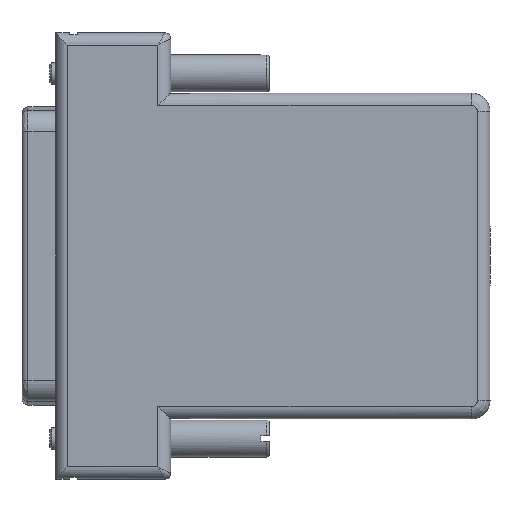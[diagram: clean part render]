
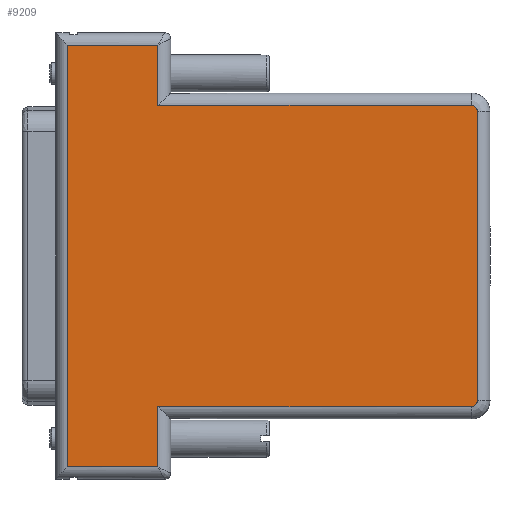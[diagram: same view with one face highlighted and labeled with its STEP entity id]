
A CAD part, front view. The second image highlights one B-rep face of the part: STEP entity #9209.
In plain terms, the highlighted planar face has unit normal (-0.043, -0.999, 0).
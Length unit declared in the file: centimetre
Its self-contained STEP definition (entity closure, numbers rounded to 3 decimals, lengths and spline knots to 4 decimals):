
#327 = EDGE_LOOP ( 'NONE', ( #1141, #1142, #1143, #1144, #1145, #1146, #1147, #1148, #1149, #1150 ) ) ;
#549 = VERTEX_POINT ( 'NONE', #6879 ) ;
#550 = VERTEX_POINT ( 'NONE', #6880 ) ;
#555 = VERTEX_POINT ( 'NONE', #6885 ) ;
#559 = VERTEX_POINT ( 'NONE', #6889 ) ;
#565 = VERTEX_POINT ( 'NONE', #6895 ) ;
#566 = VERTEX_POINT ( 'NONE', #6896 ) ;
#567 = VERTEX_POINT ( 'NONE', #6897 ) ;
#568 = VERTEX_POINT ( 'NONE', #6898 ) ;
#569 = VERTEX_POINT ( 'NONE', #6899 ) ;
#570 = VERTEX_POINT ( 'NONE', #6900 ) ;
#1141 = ORIENTED_EDGE ( 'NONE', *, *, #2737, .T. ) ;
#1142 = ORIENTED_EDGE ( 'NONE', *, *, #2724, .F. ) ;
#1143 = ORIENTED_EDGE ( 'NONE', *, *, #2727, .T. ) ;
#1144 = ORIENTED_EDGE ( 'NONE', *, *, #2728, .T. ) ;
#1145 = ORIENTED_EDGE ( 'NONE', *, *, #2730, .T. ) ;
#1146 = ORIENTED_EDGE ( 'NONE', *, *, #2731, .T. ) ;
#1147 = ORIENTED_EDGE ( 'NONE', *, *, #2733, .T. ) ;
#1148 = ORIENTED_EDGE ( 'NONE', *, *, #2735, .T. ) ;
#1149 = ORIENTED_EDGE ( 'NONE', *, *, #2736, .T. ) ;
#1150 = ORIENTED_EDGE ( 'NONE', *, *, #2720, .F. ) ;
#2720 = EDGE_CURVE ( 'NONE', #566, #567, #4455, .T. ) ;
#2724 = EDGE_CURVE ( 'NONE', #565, #568, #4458, .T. ) ;
#2727 = EDGE_CURVE ( 'NONE', #565, #549, #4820, .T. ) ;
#2728 = EDGE_CURVE ( 'NONE', #549, #555, #4821, .T. ) ;
#2730 = EDGE_CURVE ( 'NONE', #555, #570, #4825, .T. ) ;
#2731 = EDGE_CURVE ( 'NONE', #570, #550, #4826, .T. ) ;
#2733 = EDGE_CURVE ( 'NONE', #550, #559, #4829, .T. ) ;
#2735 = EDGE_CURVE ( 'NONE', #559, #569, #4831, .T. ) ;
#2736 = EDGE_CURVE ( 'NONE', #569, #567, #4832, .T. ) ;
#2737 = EDGE_CURVE ( 'NONE', #566, #568, #4834, .T. ) ;
#4455 = B_SPLINE_CURVE_WITH_KNOTS ( 'NONE', 3,
 ( #5176, #5186, #5208, #5209, #5210, #5211 ),
 .UNSPECIFIED., .F., .F.,
 ( 4, 2, 4 ),
 ( 0., 0.5, 1. ),
 .UNSPECIFIED. ) ;
#4458 = B_SPLINE_CURVE_WITH_KNOTS ( 'NONE', 3,
 ( #5225, #5224, #5236, #5237, #5238, #5239 ),
 .UNSPECIFIED., .F., .F.,
 ( 4, 2, 4 ),
 ( 0., 0.5, 1. ),
 .UNSPECIFIED. ) ;
#4820 = LINE ( 'NONE', #5254, #4823 ) ;
#4821 = LINE ( 'NONE', #5250, #4824 ) ;
#4823 = VECTOR ( 'NONE', #5256, 100. ) ;
#4824 = VECTOR ( 'NONE', #5257, 100. ) ;
#4825 = LINE ( 'NONE', #5262, #4827 ) ;
#4826 = LINE ( 'NONE', #5264, #4828 ) ;
#4827 = VECTOR ( 'NONE', #5263, 100. ) ;
#4828 = VECTOR ( 'NONE', #5265, 100. ) ;
#4829 = LINE ( 'NONE', #5270, #4830 ) ;
#4830 = VECTOR ( 'NONE', #5271, 100. ) ;
#4831 = LINE ( 'NONE', #5276, #4833 ) ;
#4832 = LINE ( 'NONE', #5278, #4835 ) ;
#4833 = VECTOR ( 'NONE', #5277, 100. ) ;
#4834 = LINE ( 'NONE', #5280, #4837 ) ;
#4835 = VECTOR ( 'NONE', #5279, 100. ) ;
#4837 = VECTOR ( 'NONE', #5281, 100. ) ;
#5176 = CARTESIAN_POINT ( 'NONE',  ( 5.2459, -0.9581, -1.8593 ) ) ;
#5186 = CARTESIAN_POINT ( 'NONE',  ( 5.2459, -0.9581, -1.8799 ) ) ;
#5208 = CARTESIAN_POINT ( 'NONE',  ( 5.2374, -0.9577, -1.9004 ) ) ;
#5209 = CARTESIAN_POINT ( 'NONE',  ( 5.2083, -0.9565, -1.9295 ) ) ;
#5210 = CARTESIAN_POINT ( 'NONE',  ( 5.1878, -0.9556, -1.9381 ) ) ;
#5211 = CARTESIAN_POINT ( 'NONE',  ( 5.1672, -0.9547, -1.938 ) ) ;
#5224 = CARTESIAN_POINT ( 'NONE',  ( 5.1878, -0.9556, 1.938 ) ) ;
#5225 = CARTESIAN_POINT ( 'NONE',  ( 5.1672, -0.9547, 1.938 ) ) ;
#5236 = CARTESIAN_POINT ( 'NONE',  ( 5.2083, -0.9565, 1.9295 ) ) ;
#5237 = CARTESIAN_POINT ( 'NONE',  ( 5.2374, -0.9577, 1.9004 ) ) ;
#5238 = CARTESIAN_POINT ( 'NONE',  ( 5.246, -0.9581, 1.8799 ) ) ;
#5239 = CARTESIAN_POINT ( 'NONE',  ( 5.2459, -0.9581, 1.8593 ) ) ;
#5250 = CARTESIAN_POINT ( 'NONE',  ( 1.1387, -0.7807, -2.8702 ) ) ;
#5254 = CARTESIAN_POINT ( 'NONE',  ( 2.6162, -0.8445, 1.938 ) ) ;
#5256 = DIRECTION ( 'NONE',  ( -0.999, 0.043, 0. ) ) ;
#5257 = DIRECTION ( 'NONE',  ( 0., 0., 1. ) ) ;
#5262 = CARTESIAN_POINT ( 'NONE',  ( 2.6162, -0.8445, 2.7127 ) ) ;
#5263 = DIRECTION ( 'NONE',  ( -0.999, 0.043, 0. ) ) ;
#5264 = CARTESIAN_POINT ( 'NONE',  ( -0.0271, -0.7304, -2.8702 ) ) ;
#5265 = DIRECTION ( 'NONE',  ( 0., 0., -1. ) ) ;
#5270 = CARTESIAN_POINT ( 'NONE',  ( 2.6162, -0.8445, -2.7127 ) ) ;
#5271 = DIRECTION ( 'NONE',  ( 0.999, -0.043, 0. ) ) ;
#5276 = CARTESIAN_POINT ( 'NONE',  ( 1.1387, -0.7807, -2.8702 ) ) ;
#5277 = DIRECTION ( 'NONE',  ( 0., 0., 1. ) ) ;
#5278 = CARTESIAN_POINT ( 'NONE',  ( 2.6162, -0.8445, -1.938 ) ) ;
#5279 = DIRECTION ( 'NONE',  ( 0.999, -0.043, 0. ) ) ;
#5280 = CARTESIAN_POINT ( 'NONE',  ( 5.2459, -0.9581, -2.8702 ) ) ;
#5281 = DIRECTION ( 'NONE',  ( 0., 0., 1. ) ) ;
#6372 = FACE_OUTER_BOUND ( 'NONE', #327, .T. ) ;
#6879 = CARTESIAN_POINT ( 'NONE',  ( 1.1387, -0.7807, 1.938 ) ) ;
#6880 = CARTESIAN_POINT ( 'NONE',  ( -0.0271, -0.7304, -2.7127 ) ) ;
#6885 = CARTESIAN_POINT ( 'NONE',  ( 1.1387, -0.7807, 2.7127 ) ) ;
#6889 = CARTESIAN_POINT ( 'NONE',  ( 1.1387, -0.7807, -2.7127 ) ) ;
#6895 = CARTESIAN_POINT ( 'NONE',  ( 5.1672, -0.9547, 1.938 ) ) ;
#6896 = CARTESIAN_POINT ( 'NONE',  ( 5.2459, -0.9581, -1.8593 ) ) ;
#6897 = CARTESIAN_POINT ( 'NONE',  ( 5.1672, -0.9547, -1.938 ) ) ;
#6898 = CARTESIAN_POINT ( 'NONE',  ( 5.2459, -0.9581, 1.8593 ) ) ;
#6899 = CARTESIAN_POINT ( 'NONE',  ( 1.1387, -0.7807, -1.938 ) ) ;
#6900 = CARTESIAN_POINT ( 'NONE',  ( -0.0271, -0.7304, 2.7127 ) ) ;
#8616 = CARTESIAN_POINT ( 'NONE',  ( 2.6162, -0.8445, -2.8702 ) ) ;
#8620 = PLANE ( 'NONE',  #8779 ) ;
#8711 = DIRECTION ( 'NONE',  ( -0.043, -0.999, 0. ) ) ;
#8712 = DIRECTION ( 'NONE',  ( 0.999, -0.043, 0. ) ) ;
#8779 = AXIS2_PLACEMENT_3D ( 'NONE', #8616, #8711, #8712 ) ;
#9209 = ADVANCED_FACE ( 'NONE', ( #6372 ), #8620, .T. ) ;
